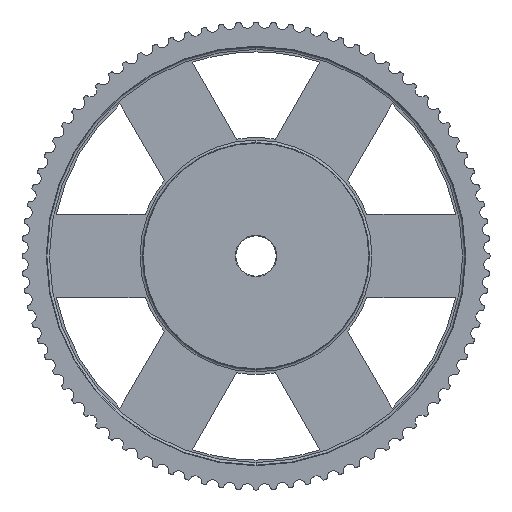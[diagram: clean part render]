
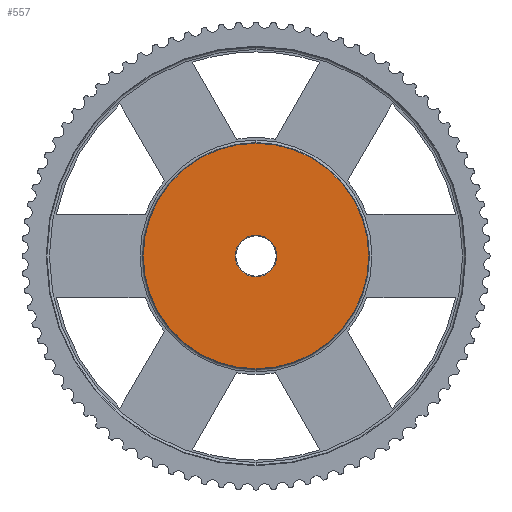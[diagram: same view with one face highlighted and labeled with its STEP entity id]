
A CAD part, left-side view. The second image highlights one B-rep face of the part: STEP entity #557.
In plain terms, the highlighted planar face has unit normal (-1, 0, 0).
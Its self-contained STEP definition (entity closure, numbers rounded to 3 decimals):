
#557=ADVANCED_FACE('',(#1540,#1541),#1542,.T.);
#1540=FACE_BOUND('',#2526,.T.);
#1541=FACE_OUTER_BOUND('',#2527,.T.);
#1542=PLANE('',#2528);
#2526=EDGE_LOOP('',(#6814,#6815));
#2527=EDGE_LOOP('',(#6816,#6817));
#2528=AXIS2_PLACEMENT_3D('',#6818,#6819,#6820);
#6814=ORIENTED_EDGE('',*,*,#6899,.T.);
#6815=ORIENTED_EDGE('',*,*,#6905,.T.);
#6816=ORIENTED_EDGE('',*,*,#8247,.T.);
#6817=ORIENTED_EDGE('',*,*,#6838,.T.);
#6818=CARTESIAN_POINT('',(0.0,0.0,0.0));
#6819=DIRECTION('',(-1.0,0.0,0.0));
#6820=DIRECTION('',(0.0,0.0,1.0));
#6838=EDGE_CURVE('',#8270,#8267,#8271,.T.);
#6899=EDGE_CURVE('',#8379,#8381,#8383,.T.);
#6905=EDGE_CURVE('',#8381,#8379,#8391,.T.);
#8247=EDGE_CURVE('',#8267,#8270,#10613,.T.);
#8267=VERTEX_POINT('',#10637);
#8270=VERTEX_POINT('',#10641);
#8271=CIRCLE('',#10642,89.5);
#8379=VERTEX_POINT('',#10771);
#8381=VERTEX_POINT('',#10774);
#8383=CIRCLE('',#10777,16.5);
#8391=CIRCLE('',#10787,16.5);
#10613=CIRCLE('',#13473,89.5);
#10637=CARTESIAN_POINT('',(0.0,89.5,0.0));
#10641=CARTESIAN_POINT('',(0.0,-89.5,0.));
#10642=AXIS2_PLACEMENT_3D('',#13496,#13497,#13498);
#10771=CARTESIAN_POINT('',(0.0,16.5,0.0));
#10774=CARTESIAN_POINT('',(0.0,-16.5,0.));
#10777=AXIS2_PLACEMENT_3D('',#13633,#13634,#13635);
#10787=AXIS2_PLACEMENT_3D('',#13647,#13648,#13649);
#13473=AXIS2_PLACEMENT_3D('',#16745,#16746,#16747);
#13496=CARTESIAN_POINT('',(0.0,0.0,0.));
#13497=DIRECTION('',(-1.0,0.0,0.0));
#13498=DIRECTION('',(0.0,1.0,0.0));
#13633=CARTESIAN_POINT('',(0.0,0.0,0.0));
#13634=DIRECTION('',(1.0,0.0,0.0));
#13635=DIRECTION('',(0.0,1.0,0.0));
#13647=CARTESIAN_POINT('',(0.0,0.0,0.0));
#13648=DIRECTION('',(1.0,0.0,0.0));
#13649=DIRECTION('',(0.0,1.0,0.0));
#16745=CARTESIAN_POINT('',(0.0,0.0,0.));
#16746=DIRECTION('',(-1.0,0.0,0.0));
#16747=DIRECTION('',(0.0,1.0,0.0));
